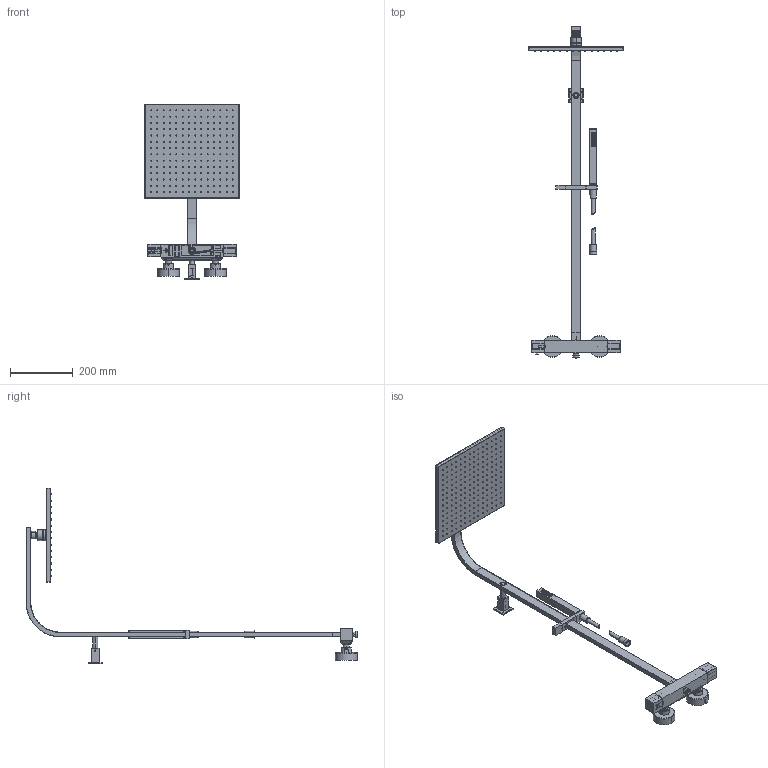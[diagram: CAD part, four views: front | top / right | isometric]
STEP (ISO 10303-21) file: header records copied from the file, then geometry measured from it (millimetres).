
FILE_DESCRIPTION(/* description */ (''),/* implementation_level */ '2;1');
FILE_NAME(/* name */ 'f4265n_q305',/* time_stamp */ '2025-04-07T12:28:43+02:00',/* author */ (''),/* organization */ (''),/* preprocessor_version */ 'ST-DEVELOPER v19.2',/* originating_system */ 'Rhino 8.1',/* authorisation */ '');
FILE_SCHEMA (('CONFIG_CONTROL_DESIGN'));
Products named in the file (1): Document
Bounding box: 300 x 1057 x 559.8 mm (x, y, z)
Volume: 1656228.1 mm3; surface area: 693876.5 mm2
Topology: 288 solids, 288 shells, 4343 faces, 9943 edges, 6224 vertices
Faces by surface type: plane 1867, cylinder 1750, bspline 726
Entity records: 169151 total; most frequent: CARTESIAN_POINT 80657, ORIENTED_EDGE 19740, DIRECTION 12001, EDGE_CURVE 9870, AXIS2_PLACEMENT_3D 7809, VERTEX_POINT 6223, B_SPLINE_CURVE_WITH_KNOTS 5679, EDGE_LOOP 5063
